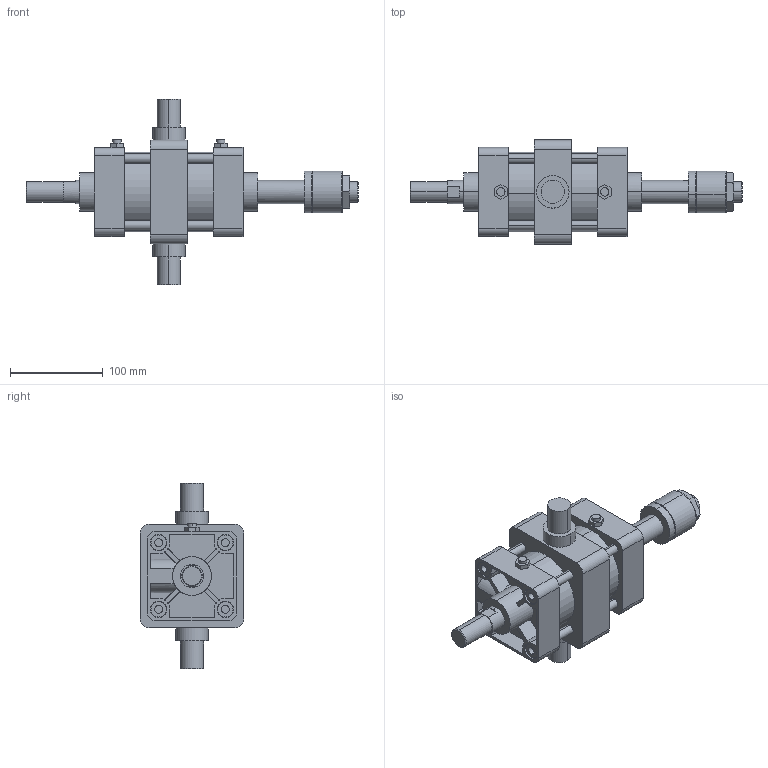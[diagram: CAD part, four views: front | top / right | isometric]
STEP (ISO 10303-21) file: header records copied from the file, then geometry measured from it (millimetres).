
FILE_DESCRIPTION (( 'STEP AP203' ), '1' );
FILE_NAME ('KGA7-80#-50-T.STEP', '2016-04-14T07:54:35', ( '' ), ( '' ), 'SwSTEP 2.0', 'SolidWorks 2014', '' );
FILE_SCHEMA (( 'CONFIG_CONTROL_DESIGN' ));
Length unit declared in the file: millimetre
Products named in the file (9): KGLH2-80-50; KGA7-80#-50-T; K#7-80-50-After; KGA7-80-Turn; K-80-T
Assembly tree (18 placements, depth 2):
  KGA7-80#-50-T
    K#7-80-50-After
    KGLH2-80-50
    (unnamed)
    (unnamed)  x4
    (unnamed)  x8
    K-80-T
    KGA7-80-Turn
    (unnamed)
Bounding box: 358 x 112 x 200 mm (x, y, z)
Volume: 1481091.2 mm3; surface area: 248479.5 mm2
Topology: 18 solids, 18 shells, 393 faces, 918 edges, 584 vertices
Faces by surface type: plane 163, cylinder 156, torus 46, cone 28
Entity records: 10399 total; most frequent: CARTESIAN_POINT 1866, DIRECTION 1622, ORIENTED_EDGE 1456, EDGE_CURVE 728, AXIS2_PLACEMENT_3D 622, VERTEX_POINT 474, LINE 378, VECTOR 378
